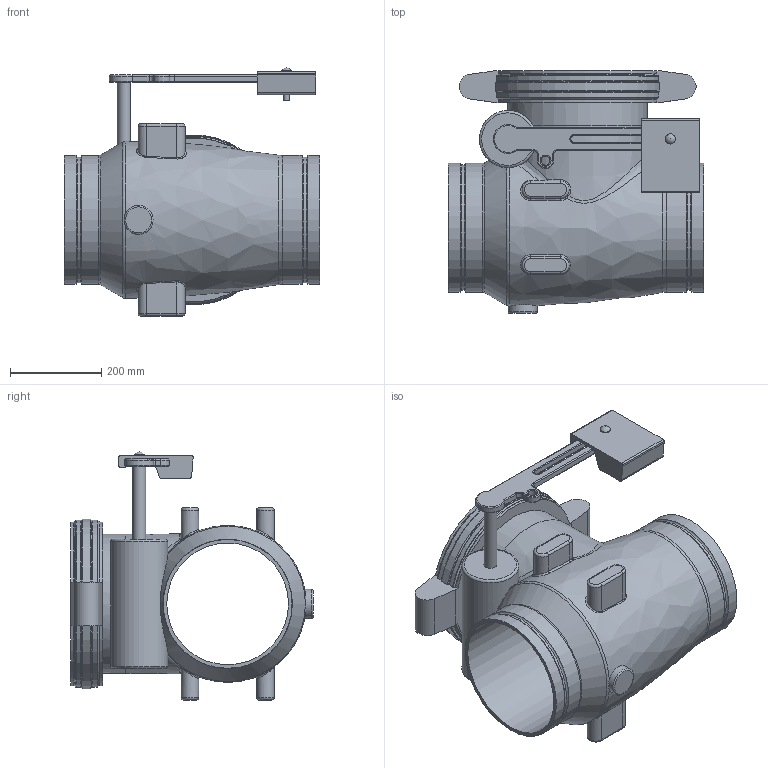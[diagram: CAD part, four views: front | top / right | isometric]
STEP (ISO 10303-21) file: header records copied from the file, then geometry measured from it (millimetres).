
FILE_DESCRIPTION(/* description */ ('VIC AWWA VALVE CHECK WEIGHT AND LEVER SERIES 317 (DRG)','CAx-IF Rec.Pracs.---Representation and Presentation of Product Manufacturing Information (PMI)---4.0---2014-10-13'),/* implementation_level */ '2;1');
FILE_NAME(/* name */ 'C:\Users\Vjadhav\Desktop\CAD for Inventor\1\317\STEP\Victaulic_AWWA_Valve Check Weight and Lever_Series 317 (DRG)\Victaulic_AWWA_Valve Check Weight and Lever_Series 317 (DRG)_10 (250).stp',/* time_stamp */ '2021-10-01T17:35:29+05:00',/* author */ ('jbrannon'),/* organization */ ('Victaulic'),/* preprocessor_version */ 'ST-DEVELOPER v17.2',/* originating_system */ 'Autodesk Inventor 2019',/* authorisation */ '');
FILE_SCHEMA (('AP242_MANAGED_MODEL_BASED_3D_ENGINEERING_MIM_LF { 1 0 10303 442 1 1 4 }'));
Length unit declared in the file: inch
Products named in the file (1): 317-10.0
Bounding box: 558.8 x 530.86 x 542.59 mm (x, y, z)
Volume: 33332457.5 mm3; surface area: 1604054.7 mm2
Topology: 1 solids, 1 shells, 221 faces, 584 edges, 370 vertices
Faces by surface type: cylinder 76, plane 59, torus 49, bspline 26, cone 10, sphere 1
Full cylindrical faces by diameter (mm): 12.7 x2, 19.177 x1, 22.225 x1, 28.575 x1, 34.925 x1, 63.5 x1, 124.968 x1, 266.192 x1, 274.65 x2, 281.94 x4, 304.8 x1
Entity records: 8929 total; most frequent: CARTESIAN_POINT 3179, ORIENTED_EDGE 1166, DIRECTION 1164, EDGE_CURVE 583, AXIS2_PLACEMENT_3D 480, VERTEX_POINT 370, CIRCLE 271, EDGE_LOOP 237
